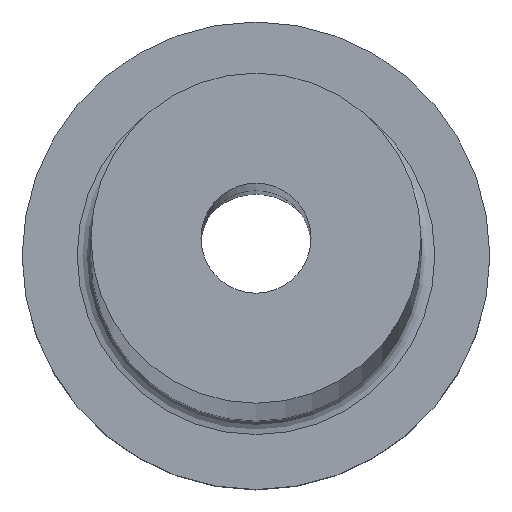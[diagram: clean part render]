
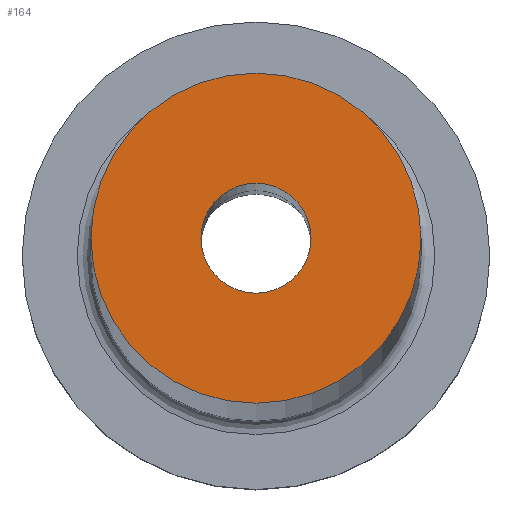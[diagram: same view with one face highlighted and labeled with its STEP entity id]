
A CAD part, top view. The second image highlights one B-rep face of the part: STEP entity #164.
In plain terms, the highlighted planar face has unit normal (0, 0, 1).
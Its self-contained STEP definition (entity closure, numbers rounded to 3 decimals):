
#15 = ORIENTED_EDGE ( 'NONE', *, *, #211, .T. ) ;
#21 = DIRECTION ( 'NONE',  ( 1., 0., 0. ) ) ;
#24 = DIRECTION ( 'NONE',  ( 0., 0., 1. ) ) ;
#73 = CIRCLE ( 'NONE', #158, 6. ) ;
#76 = EDGE_CURVE ( 'NONE', #154, #154, #93, .T. ) ;
#85 = CARTESIAN_POINT ( 'NONE',  ( 0., 0., 375. ) ) ;
#91 = CARTESIAN_POINT ( 'NONE',  ( 6., 0., 375. ) ) ;
#93 = CIRCLE ( 'NONE', #169, 2. ) ;
#106 = CARTESIAN_POINT ( 'NONE',  ( 0., 0., 375. ) ) ;
#113 = AXIS2_PLACEMENT_3D ( 'NONE', #106, #242, #149 ) ;
#127 = CARTESIAN_POINT ( 'NONE',  ( 2., 0., 375. ) ) ;
#131 = PLANE ( 'NONE',  #113 ) ;
#132 = DIRECTION ( 'NONE',  ( 0., 0., 1. ) ) ;
#149 = DIRECTION ( 'NONE',  ( -1., 0., 0. ) ) ;
#154 = VERTEX_POINT ( 'NONE', #127 ) ;
#157 = EDGE_LOOP ( 'NONE', ( #15 ) ) ;
#158 = AXIS2_PLACEMENT_3D ( 'NONE', #224, #132, #192 ) ;
#164 = ADVANCED_FACE ( 'NONE', ( #274, #232 ), #131, .F. ) ;
#165 = EDGE_LOOP ( 'NONE', ( #272 ) ) ;
#169 = AXIS2_PLACEMENT_3D ( 'NONE', #85, #24, #21 ) ;
#192 = DIRECTION ( 'NONE',  ( 1., 0., 0. ) ) ;
#211 = EDGE_CURVE ( 'NONE', #229, #229, #73, .T. ) ;
#224 = CARTESIAN_POINT ( 'NONE',  ( 0., 0., 375. ) ) ;
#229 = VERTEX_POINT ( 'NONE', #91 ) ;
#232 = FACE_OUTER_BOUND ( 'NONE', #157, .T. ) ;
#242 = DIRECTION ( 'NONE',  ( 0., 0., -1. ) ) ;
#272 = ORIENTED_EDGE ( 'NONE', *, *, #76, .F. ) ;
#274 = FACE_BOUND ( 'NONE', #165, .T. ) ;
